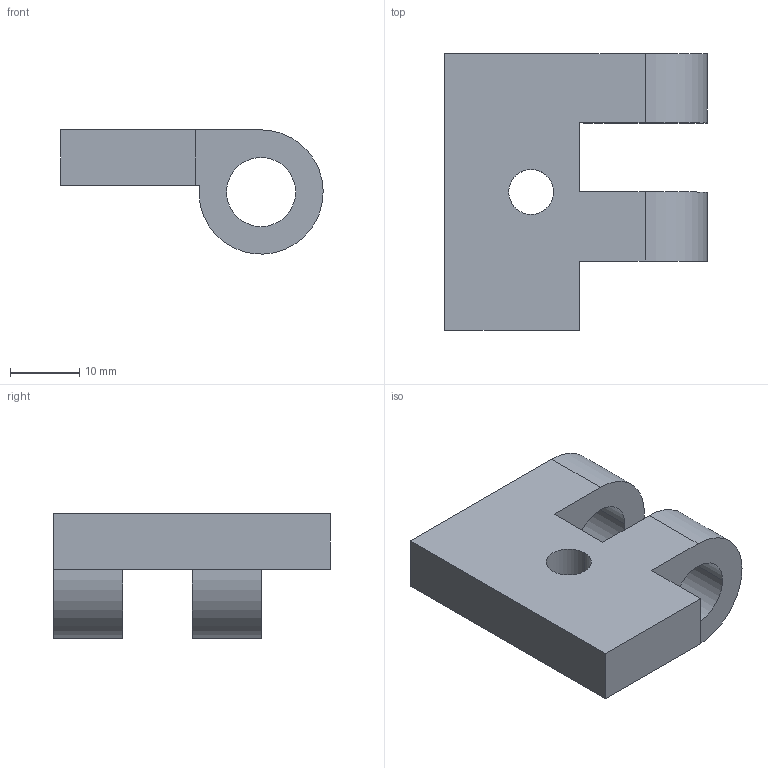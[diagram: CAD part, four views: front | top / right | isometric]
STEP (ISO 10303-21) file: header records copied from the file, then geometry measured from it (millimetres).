
FILE_DESCRIPTION((''),'2;1');
FILE_NAME('CE30_1','2002-12-27T',('Lipro doo'),('Lipro d.o.o.'),'PRO/ENGINEER BY PARAMETRIC TECHNOLOGY CORPORATION, 2001150','PRO/ENGINEER BY PARAMETRIC TECHNOLOGY CORPORATION, 2001150','');
FILE_SCHEMA(('CONFIG_CONTROL_DESIGN'));
Length unit declared in the file: millimetre
Products named in the file (1): CE30_1
Bounding box: 38 x 40 x 17.99 mm (x, y, z)
Volume: 9750.4 mm3; surface area: 4909.9 mm2
Topology: 1 solids, 1 shells, 20 faces, 52 edges, 34 vertices
Faces by surface type: plane 10, cylinder 8, cone 2
Entity records: 668 total; most frequent: DIRECTION 110, CARTESIAN_POINT 106, ORIENTED_EDGE 104, EDGE_CURVE 52, AXIS2_PLACEMENT_3D 38, VECTOR 34, LINE 34, VERTEX_POINT 34
